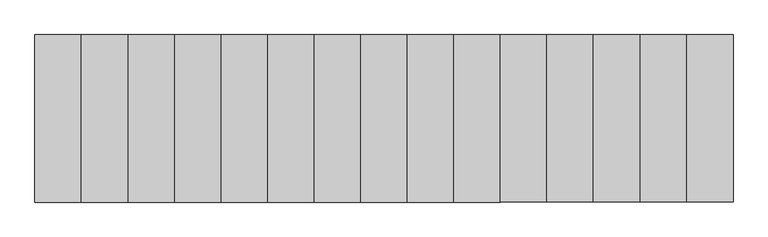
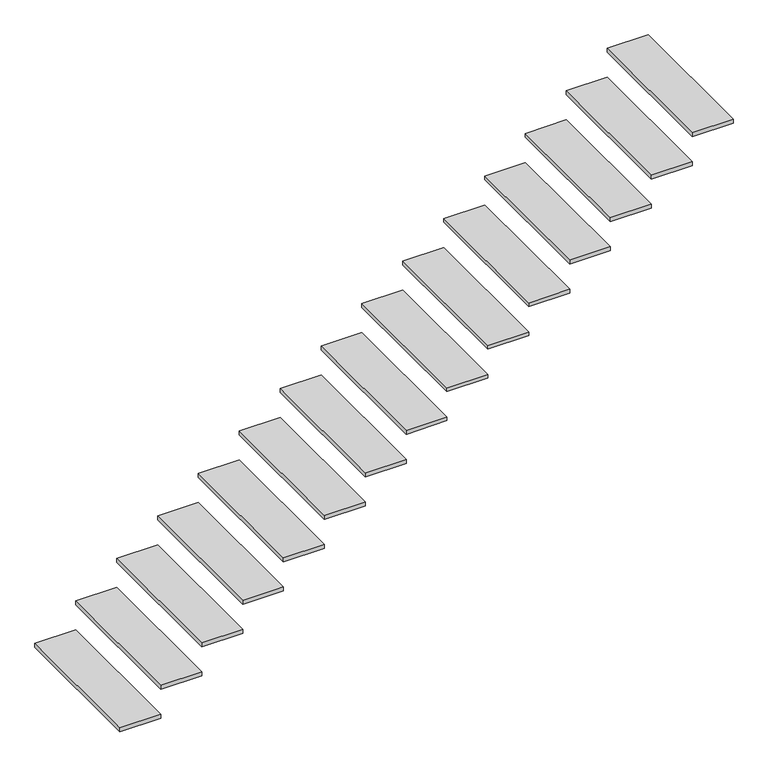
"""IFC4 building model written with IfcOpenShell, lengths in millimetres: stair flight geometry."""

from ifc_helpers import new_model, si_unit, frame, origin, place, context, project, spatial, polyline, outline, extrude, source, transform, mapped, element, save


def stair_flight_c29993e0(model_context):
    return source(origin(), model_context, "Body", "SweptSolid", [
        extrude(outline(polyline([(-26976.8481446, -13417.6871906), (-26976.8481446, -14332.0871906), (-27230.8481446, -14332.0871906), (-27230.8481446, -13417.6871906), (-26976.8481446, -13417.6871906)])), frame((0.0, 0.0, 165.1), z_axis=(0.0, 0.0, 1.0), x_axis=(1.0, 0.0, 0.0)), (0.0, 0.0, 1.0), 25.4),
        extrude(outline(polyline([(-26722.8481446, -13417.6871906), (-26722.8481446, -14332.0871906), (-26976.8481446, -14332.0871906), (-26976.8481446, -13417.6871906), (-26722.8481446, -13417.6871906)])), frame((0.0, 0.0, 355.6), z_axis=(0.0, 0.0, 1.0), x_axis=(1.0, 0.0, 0.0)), (0.0, 0.0, 1.0), 25.4),
        extrude(outline(polyline([(-26468.8481446, -13417.6871906), (-26468.8481446, -14332.0871906), (-26722.8481446, -14332.0871906), (-26722.8481446, -13417.6871906), (-26468.8481446, -13417.6871906)])), frame((0.0, 0.0, 546.1), z_axis=(0.0, 0.0, 1.0), x_axis=(1.0, 0.0, 0.0)), (0.0, 0.0, 1.0), 25.4),
        extrude(outline(polyline([(-26214.8481446, -13417.6871906), (-26214.8481446, -14332.0871906), (-26468.8481446, -14332.0871906), (-26468.8481446, -13417.6871906), (-26214.8481446, -13417.6871906)])), frame((0.0, 0.0, 736.6), z_axis=(0.0, 0.0, 1.0), x_axis=(1.0, 0.0, 0.0)), (0.0, 0.0, 1.0), 25.4),
        extrude(outline(polyline([(-25960.8481446, -13417.6871906), (-25960.8481446, -14332.0871906), (-26214.8481446, -14332.0871906), (-26214.8481446, -13417.6871906), (-25960.8481446, -13417.6871906)])), frame((0.0, 0.0, 927.1), z_axis=(0.0, 0.0, 1.0), x_axis=(1.0, 0.0, 0.0)), (0.0, 0.0, 1.0), 25.4),
        extrude(outline(polyline([(-25706.8481446, -13417.6871906), (-25706.8481446, -14332.0871906), (-25960.8481446, -14332.0871906), (-25960.8481446, -13417.6871906), (-25706.8481446, -13417.6871906)])), frame((0.0, 0.0, 1117.6), z_axis=(0.0, 0.0, 1.0), x_axis=(1.0, 0.0, 0.0)), (0.0, 0.0, 1.0), 25.4),
        extrude(outline(polyline([(-25452.8481446, -13417.6871906), (-25452.8481446, -14332.0871906), (-25706.8481446, -14332.0871906), (-25706.8481446, -13417.6871906), (-25452.8481446, -13417.6871906)])), frame((0.0, 0.0, 1308.1), z_axis=(0.0, 0.0, 1.0), x_axis=(1.0, 0.0, 0.0)), (0.0, 0.0, 1.0), 25.4),
        extrude(outline(polyline([(-25198.8481446, -13417.6871906), (-25198.8481446, -14332.0871906), (-25452.8481446, -14332.0871906), (-25452.8481446, -13417.6871906), (-25198.8481446, -13417.6871906)])), frame((0.0, 0.0, 1498.6), z_axis=(0.0, 0.0, 1.0), x_axis=(1.0, 0.0, 0.0)), (0.0, 0.0, 1.0), 25.4),
        extrude(outline(polyline([(-24944.8481446, -13417.6871906), (-24944.8481446, -14332.0871906), (-25198.8481446, -14332.0871906), (-25198.8481446, -13417.6871906), (-24944.8481446, -13417.6871906)])), frame((0.0, 0.0, 1689.1), z_axis=(0.0, 0.0, 1.0), x_axis=(1.0, 0.0, 0.0)), (0.0, 0.0, 1.0), 25.4),
        extrude(outline(polyline([(-24690.8481446, -13417.6871906), (-24690.8481446, -14332.0871906), (-24944.8481446, -14332.0871906), (-24944.8481446, -13417.6871906), (-24690.8481446, -13417.6871906)])), frame((0.0, 0.0, 1879.6), z_axis=(0.0, 0.0, 1.0), x_axis=(1.0, 0.0, 0.0)), (0.0, 0.0, 1.0), 25.4),
        extrude(outline(polyline([(-24436.8481446, -13417.6871906), (-24436.8481446, -14332.0871906), (-24690.8481446, -14332.0871906), (-24690.8481446, -13417.6871906), (-24436.8481446, -13417.6871906)])), frame((0.0, 0.0, 2070.1), z_axis=(0.0, 0.0, 1.0), x_axis=(1.0, 0.0, 0.0)), (0.0, 0.0, 1.0), 25.4),
        extrude(outline(polyline([(-24182.8481446, -13417.6871906), (-24182.8481446, -14332.0871906), (-24436.8481446, -14332.0871906), (-24436.8481446, -13417.6871906), (-24182.8481446, -13417.6871906)])), frame((0.0, 0.0, 2260.6), z_axis=(0.0, 0.0, 1.0), x_axis=(1.0, 0.0, 0.0)), (0.0, 0.0, 1.0), 25.4),
        extrude(outline(polyline([(-23928.8481446, -13417.6871906), (-23928.8481446, -14332.0871906), (-24182.8481446, -14332.0871906), (-24182.8481446, -13417.6871906), (-23928.8481446, -13417.6871906)])), frame((0.0, 0.0, 2451.1), z_axis=(0.0, 0.0, 1.0), x_axis=(1.0, 0.0, 0.0)), (0.0, 0.0, 1.0), 25.4),
        extrude(outline(polyline([(-23674.8481446, -13417.6871906), (-23674.8481446, -14332.0871906), (-23928.8481446, -14332.0871906), (-23928.8481446, -13417.6871906), (-23674.8481446, -13417.6871906)])), frame((0.0, 0.0, 2641.6), z_axis=(0.0, 0.0, 1.0), x_axis=(1.0, 0.0, 0.0)), (0.0, 0.0, 1.0), 25.4),
        extrude(outline(polyline([(-23420.8481446, -13417.6871906), (-23420.8481446, -14332.0871906), (-23674.8481446, -14332.0871906), (-23674.8481446, -13417.6871906), (-23420.8481446, -13417.6871906)])), frame((0.0, 0.0, 2832.1), z_axis=(0.0, 0.0, 1.0), x_axis=(1.0, 0.0, 0.0)), (0.0, 0.0, 1.0), 25.4),
    ])


if __name__ == "__main__":
    model = new_model("IFC4")
    model_context = context("Model", 3, world=origin())
    ifc_project = project(units=[si_unit("LENGTHUNIT", "METRE", prefix="MILLI")], contexts=[model_context])
    site = spatial("IfcSite", under=ifc_project)
    building = spatial("IfcBuilding", under=site)
    placement = place(None, origin())
    stair_flight_shape = stair_flight_c29993e0(model_context)
    element("IfcStairFlight", 1, ObjectType="Unassigned Steps with 1\" Tread", at=placement, inside=building, context=model_context, shape_type="MappedRepresentation", body=[
        mapped(stair_flight_shape, transform((0.0, 0.0, 0.0), x_axis=(1.0, 0.0, 0.0), y_axis=(0.0, 1.0, 0.0), z_axis=(0.0, 0.0, 1.0))),
    ])
    save(model, "model.ifc")
